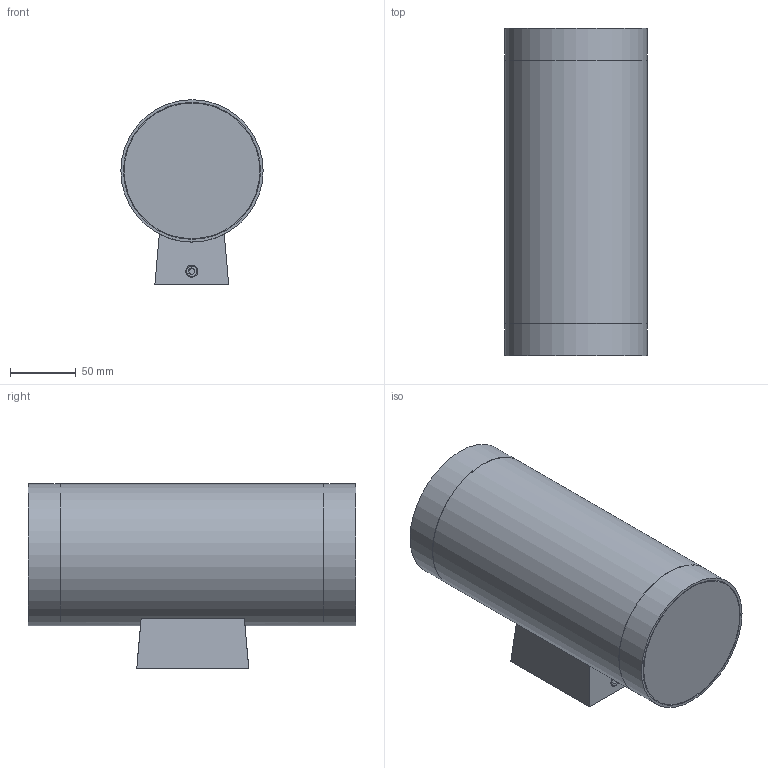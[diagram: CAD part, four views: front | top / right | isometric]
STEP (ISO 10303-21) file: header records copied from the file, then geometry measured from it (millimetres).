
FILE_DESCRIPTION (( 'STEP AP214' ), '1' );
FILE_NAME ('NORI-A2044181.STEP', '2026-01-15T06:27:15', ( '' ), ( '' ), 'SwSTEP 2.0', 'SolidWorks 2025', '' );
FILE_SCHEMA (( 'AUTOMOTIVE_DESIGN' ));
Length unit declared in the file: millimetre
Products named in the file (11): top part_默认; E27 lampholder_默认; tube 2L_默认; Bracket for lampholder_默认; lampholder plastic part_默认; diffuser_默认; mirror_默认; M4 Screw_默认; Bracket_默认; Base_默认; NORI-A2044181
Assembly tree (17 placements, depth 2):
  NORI-A2044181
    Base_默认
    Bracket_默认
    Bracket for lampholder_默认  x2
    diffuser_默认  x2
    E27 lampholder_默认  x2
    lampholder plastic part_默认  x2
    mirror_默认  x2
    top part_默认  x2
    tube 2L_默认
    M4 Screw_默认  x2
Bounding box: 108 x 248.4 x 140.1 mm (x, y, z)
Volume: 532102.7 mm3; surface area: 400644.6 mm2
Topology: 17 solids, 17 shells, 649 faces, 1603 edges, 992 vertices
Faces by surface type: plane 257, cylinder 212, bspline 59, torus 54, cone 46, sphere 21
Full cylindrical faces by diameter (mm): 3.219 x6, 4.252 x18, 4.452 x1, 5 x16, 9 x1, 10 x1, 12 x1, 14 x1, 33.5 x2, 44.5 x2, 45 x2, 47 x2, 97 x2, 100.5 x11, 102 x2, 103 x2, 104 x16, 104.5 x9, 108 x3
Entity records: 18848 total; most frequent: CARTESIAN_POINT 10254, ORIENTED_EDGE 1702, DIRECTION 1623, EDGE_CURVE 851, AXIS2_PLACEMENT_3D 613, VERTEX_POINT 559, EDGE_LOOP 490, FACE_OUTER_BOUND 416
